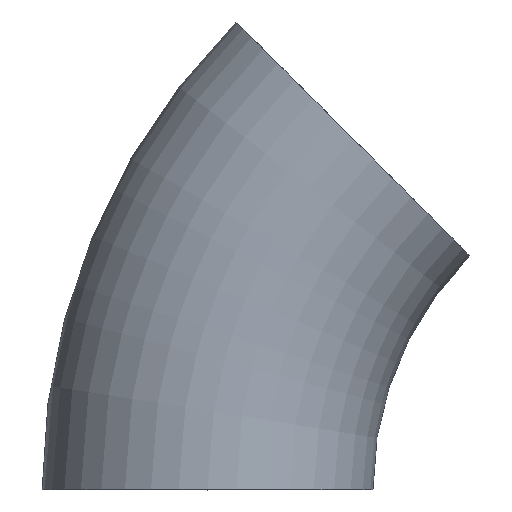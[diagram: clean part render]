
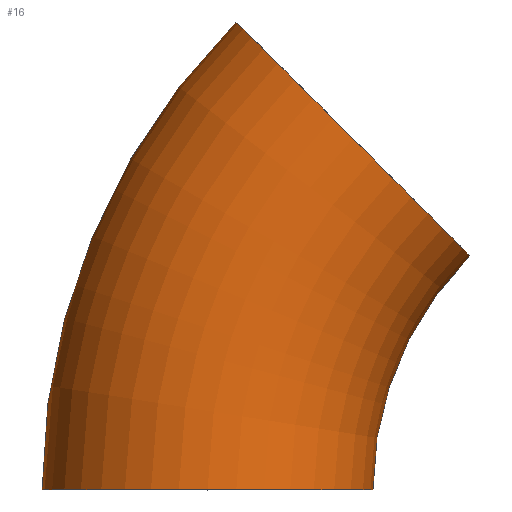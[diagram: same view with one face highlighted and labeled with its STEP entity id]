
A CAD part, top view. The second image highlights one B-rep face of the part: STEP entity #16.
In plain terms, the highlighted toroidal (fillet/blend) face has major radius 114.3 mm and minor radius 38.1 mm.
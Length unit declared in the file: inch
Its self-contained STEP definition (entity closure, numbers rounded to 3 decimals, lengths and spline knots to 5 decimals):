
#16 = ADVANCED_FACE ( 'NONE', ( #223 ), #172, .T. ) ;
#30 = VERTEX_POINT ( 'NONE', #31 ) ;
#31 = CARTESIAN_POINT ( 'NONE',  ( -3., 0., 0. ) ) ;
#68 = DIRECTION ( 'NONE',  ( 0., 0., 1. ) ) ;
#75 = CIRCLE ( 'NONE', #152, 1.5 ) ;
#84 = DIRECTION ( 'NONE',  ( 1., 0., 0. ) ) ;
#90 = DIRECTION ( 'NONE',  ( 0., 0., 1. ) ) ;
#93 = CARTESIAN_POINT ( 'NONE',  ( 0., 0., 0. ) ) ;
#106 = DIRECTION ( 'NONE',  ( 0., 0., 1. ) ) ;
#107 = DIRECTION ( 'NONE',  ( 0., 1., 0. ) ) ;
#112 = CARTESIAN_POINT ( 'NONE',  ( -4.5, 0., 0. ) ) ;
#115 = DIRECTION ( 'NONE',  ( 1., 0., 0. ) ) ;
#116 = DIRECTION ( 'NONE',  ( 0., 0., 1. ) ) ;
#120 = CARTESIAN_POINT ( 'NONE',  ( 0., 0., 0. ) ) ;
#125 = CIRCLE ( 'NONE', #158, 1.5 ) ;
#135 = ORIENTED_EDGE ( 'NONE', *, *, #228, .T. ) ;
#141 = DIRECTION ( 'NONE',  ( 0., 0., 1. ) ) ;
#142 = DIRECTION ( 'NONE',  ( 0.707, 0.707, 0. ) ) ;
#144 = CARTESIAN_POINT ( 'NONE',  ( -3.18198, 3.18198, 0. ) ) ;
#149 = AXIS2_PLACEMENT_3D ( 'NONE', #93, #90, #84 ) ;
#152 = AXIS2_PLACEMENT_3D ( 'NONE', #112, #107, #106 ) ;
#153 = AXIS2_PLACEMENT_3D ( 'NONE', #120, #116, #115 ) ;
#158 = AXIS2_PLACEMENT_3D ( 'NONE', #144, #142, #141 ) ;
#172 = TOROIDAL_SURFACE ( 'NONE', #192, 4.5, 1.5 ) ;
#176 = VERTEX_POINT ( 'NONE', #253 ) ;
#182 = DIRECTION ( 'NONE',  ( 1., 0., 0. ) ) ;
#188 = ORIENTED_EDGE ( 'NONE', *, *, #221, .F. ) ;
#192 = AXIS2_PLACEMENT_3D ( 'NONE', #252, #68, #182 ) ;
#193 = VERTEX_POINT ( 'NONE', #239 ) ;
#202 = CARTESIAN_POINT ( 'NONE',  ( -2.12132, 2.12132, 0. ) ) ;
#214 = EDGE_LOOP ( 'NONE', ( #188, #135, #238, #246 ) ) ;
#221 = EDGE_CURVE ( 'NONE', #193, #226, #125, .T. ) ;
#223 = FACE_OUTER_BOUND ( 'NONE', #214, .T. ) ;
#226 = VERTEX_POINT ( 'NONE', #202 ) ;
#228 = EDGE_CURVE ( 'NONE', #193, #176, #236, .T. ) ;
#235 = EDGE_CURVE ( 'NONE', #176, #30, #75, .T. ) ;
#236 = CIRCLE ( 'NONE', #153, 6. ) ;
#238 = ORIENTED_EDGE ( 'NONE', *, *, #235, .T. ) ;
#239 = CARTESIAN_POINT ( 'NONE',  ( -4.24264, 4.24264, 0. ) ) ;
#242 = EDGE_CURVE ( 'NONE', #226, #30, #256, .T. ) ;
#246 = ORIENTED_EDGE ( 'NONE', *, *, #242, .F. ) ;
#252 = CARTESIAN_POINT ( 'NONE',  ( 0., 0., 0. ) ) ;
#253 = CARTESIAN_POINT ( 'NONE',  ( -6., 0., 0. ) ) ;
#256 = CIRCLE ( 'NONE', #149, 3. ) ;
